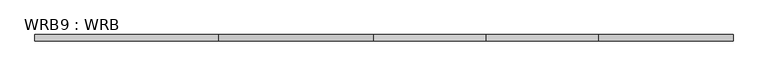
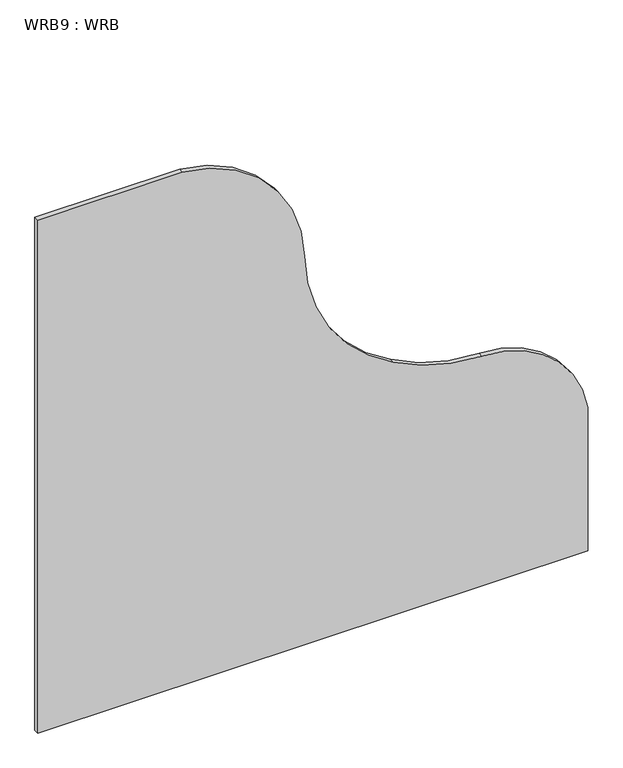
"""IFC4 building model written with IfcOpenShell, lengths in millimetres: proxy geometry, WRB9 : WRB."""

from ifc_helpers import new_model, si_unit, point, frame, frame_2d, origin, place, context, project, spatial, polyline, circle_curve, trimmed, segment, composite_curve, outline, extrude, source, transform, mapped, element, save


def wrb9_wrb_41caa409(model_context):
    return source(origin(), model_context, "Body", "SweptSolid", [
        extrude(outline(composite_curve([segment(polyline([(-19.05, 5761.647143), (-19.05, 7018.947143), (326.9760682, 7018.947143)]), True, "CONTINUOUS"), segment(trimmed(circle_curve(frame_2d((286.9857554, 6773.6368291)), 248.5485369), [point((326.9760682, 7018.947143))], [point((535.510358, 6777.0860471))], False, "CARTESIAN"), True, "CONTINUOUS"), segment(trimmed(circle_curve(frame_2d((948.5891228, 6782.819076)), 413.1185466), [point((535.510358, 6777.0860471))], [point((591.8706469, 6574.447143))], True, "CARTESIAN"), True, "CONTINUOUS"), segment(trimmed(circle_curve(frame_2d((925.1337293, 6745.2093528)), 374.4649709), [point((591.8706469, 6574.447143))], [point((918.4023164, 6370.804889))], True, "CARTESIAN"), True, "CONTINUOUS"), segment(trimmed(circle_curve(frame_2d((912.871688, 6063.18864)), 307.6659626), [point((918.4023164, 6370.804889))], [point((1219.2, 6091.847143))], False, "CARTESIAN"), True, "CONTINUOUS"), segment(polyline([(1219.2, 6091.847143), (1219.2, 5761.647143), (-19.05, 5761.647143)]), True, "CONTINUOUS")], self_intersect=False)), frame((0.0, 3089.5640644, 0.0), z_axis=(0.0, 1.0, 0.0), x_axis=(0.0, 0.0, 1.0)), (0.0, 0.0, 1.0), 11.1125),
    ])


if __name__ == "__main__":
    model = new_model("IFC4")
    model_context = context("Model", 3, world=origin())
    ifc_project = project(units=[si_unit("LENGTHUNIT", "METRE", prefix="MILLI")], contexts=[model_context])
    site = spatial("IfcSite", under=ifc_project)
    building = spatial("IfcBuilding", under=site)
    placement = place(None, origin())
    wrb9_wrb_shape = wrb9_wrb_41caa409(model_context)
    element("IfcBuildingElementProxy", 1, Name="WRB9 : WRB", ObjectType="WRB9 : WRB", at=placement, inside=building, context=model_context, shape_type="MappedRepresentation", body=[
        mapped(wrb9_wrb_shape, transform((0.0, 0.0, 0.0), x_axis=(1.0, 0.0, 0.0), y_axis=(0.0, 1.0, 0.0), z_axis=(0.0, 0.0, 1.0))),
    ])
    save(model, "model.ifc")
